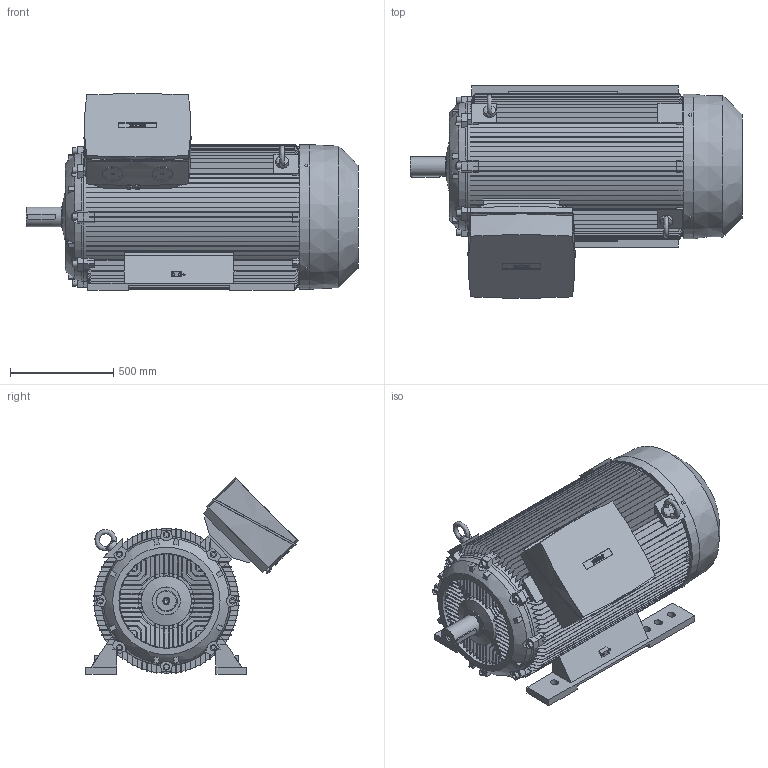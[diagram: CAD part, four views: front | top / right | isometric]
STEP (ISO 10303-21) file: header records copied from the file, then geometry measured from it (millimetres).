
FILE_DESCRIPTION (( 'STEP AP214' ), '1' );
FILE_NAME ('7RN355L04E34 IM1001.STEP', '2017-10-10T12:34:55', ( 'rbc_ict' ), ( '' ), 'SwSTEP 2.0', 'SolidWorks 2015', '' );
FILE_SCHEMA (( 'AUTOMOTIVE_DESIGN' ));
Length unit declared in the file: millimetre
Products named in the file (1): 7RN355L04E34 IM1001
Bounding box: 1607 x 1028.13 x 951.41 mm (x, y, z)
Volume: 525406811.6 mm3; surface area: 12711047.3 mm2
Topology: 7 solids, 22 shells, 1819 faces, 5147 edges, 3419 vertices
Faces by surface type: plane 1256, cylinder 281, bspline 255, cone 27
Full cylindrical faces by diameter (mm): 6.8 x1, 12 x4, 23 x2, 24 x1, 29 x2, 30 x8, 31 x2, 60 x2, 76 x2, 95 x1, 97 x2, 100 x1, 135 x1, 242 x1, 459 x1, 700 x1
Entity records: 90401 total; most frequent: CARTESIAN_POINT 27412, ORIENTED_EDGE 10172, DIRECTION 7606, EDGE_CURVE 5086, VERTEX_POINT 3400, LINE 3006, VECTOR 3006, AXIS2_PLACEMENT_3D 2300
